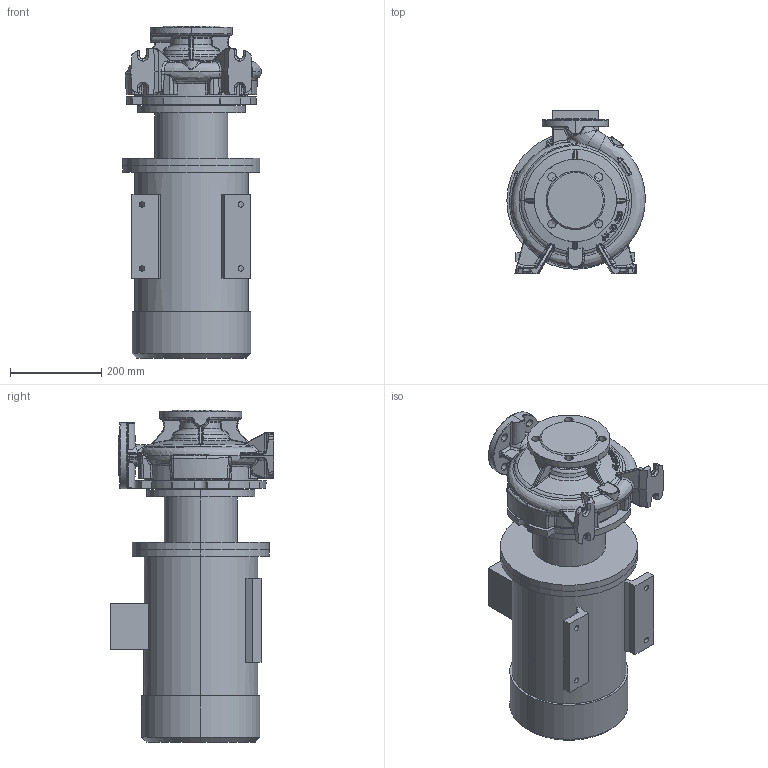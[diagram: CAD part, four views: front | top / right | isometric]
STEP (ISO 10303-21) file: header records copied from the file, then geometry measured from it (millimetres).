
FILE_DESCRIPTION (( 'STEP AP214' ), '1' );
FILE_NAME ('KRM 65-40-200-2-7,5.STEP', '2026-04-24T08:21:43', ( '' ), ( '' ), 'SwSTEP 2.0', 'SolidWorks 2016', '' );
FILE_SCHEMA (( 'AUTOMOTIVE_DESIGN' ));
Length unit declared in the file: millimetre
Products named in the file (1): KRM 65-40-200-2-7,5
Bounding box: 302.64 x 358 x 726.3 mm (x, y, z)
Volume: 34167020.7 mm3; surface area: 1383347.8 mm2
Topology: 4 solids, 4 shells, 1142 faces, 2779 edges, 1656 vertices
Faces by surface type: bspline 511, cylinder 218, plane 213, cone 90, torus 82, sphere 28
Entity records: 84424 total; most frequent: CARTESIAN_POINT 49200, ORIENTED_EDGE 5516, DIRECTION 3668, EDGE_CURVE 2758, VERTEX_POINT 1656, AXIS2_PLACEMENT_3D 1537, EDGE_LOOP 1198, UNCERTAINTY_MEASURE_WITH_UNIT 1148
